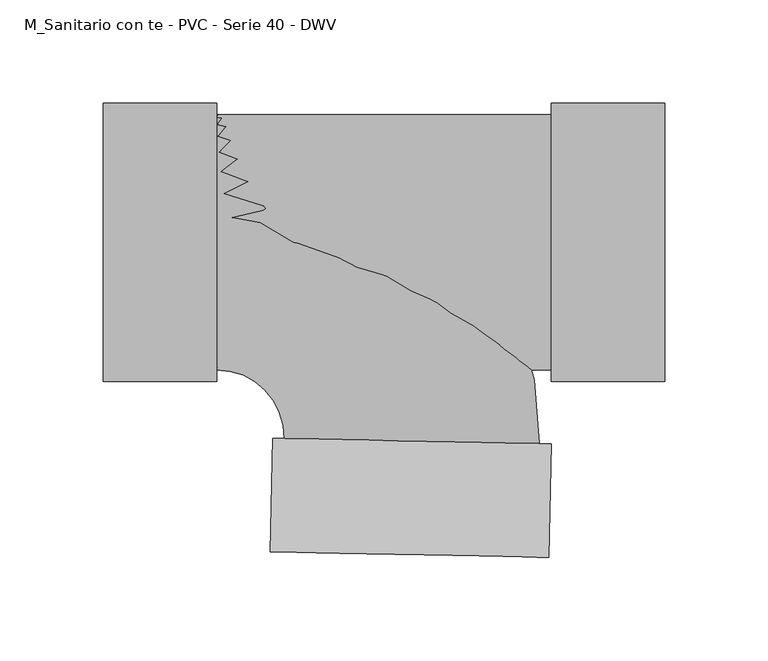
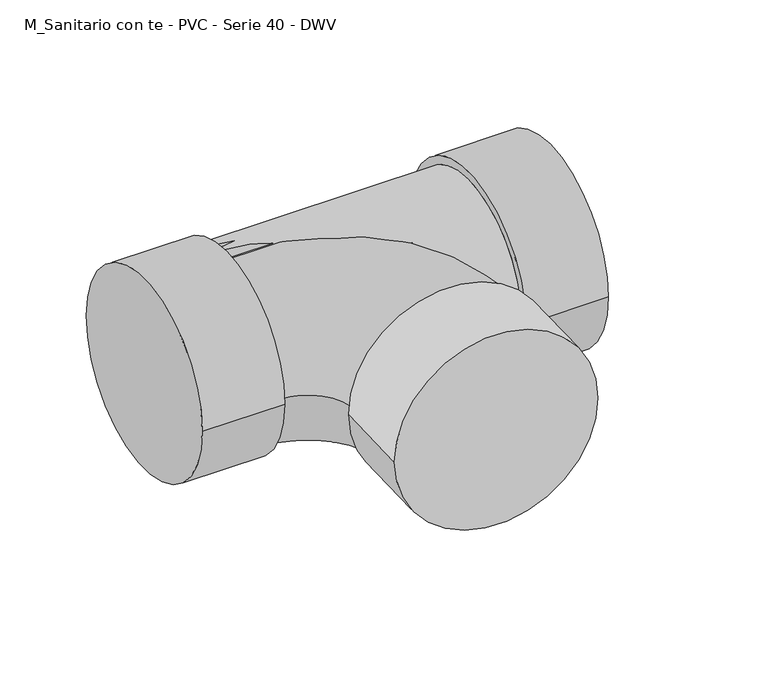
"""IFC4 building model written with IfcOpenShell, lengths in millimetres: pipe fitting geometry, M_Sanitario con te - PVC - Serie 40 - DWV : Estándar."""

from ifc_helpers import new_model, si_unit, point, frame, origin, place, context, project, spatial, circle_curve, ellipse_curve, trimmed, source, transform, mapped, element, save
from ifc_brep_helpers import plane_surface, cylinder_surface, revolved_surface, advanced_brep


def m_sanitario_con_te_pvc_serie_40_dwv_3bcfd35b(model_context):
    return source(origin(), model_context, "Body", "AdvancedBrep", [
        advanced_brep(
        [(-96.2140625, -61.7640625, 0.0), (-96.2140625, 61.7640625, 0.0), (-63.6756099, -94.9597912, 0.0), (59.8278169, -97.4298597, 0.0), (64.3499594, -152.5313015, 0.0), (-70.3973126, -149.836356, 0.0), (65.4497395, -97.5422982, 0.0), (-69.2975325, -94.8473527, 0.0)],
        [
            (0, 1, circle_curve(frame((-96.2140625, 0.0, 0.0), z_axis=(-1.0, 0.0, 0.0), x_axis=(0.0, 1.0, 0.0)), 61.7640625)),
            (1, 0, circle_curve(frame((-96.2140625, 0.0, 0.0), z_axis=(-1.0, 0.0, 0.0), x_axis=(0.0, 1.0, 0.0)), 61.7640625)),
            (0, 2, circle_curve(frame((-96.2140625, -94.3090221, 0.0), z_axis=(0.0, 0.0, -1.0), x_axis=(0.0, 1.0, 0.0)), 32.5449596)),
            (2, 3, circle_curve(frame((-1.9238965, -96.1948255, 0.0), z_axis=(0.019996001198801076, 0.999800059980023, 0.0), x_axis=(0.999800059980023, -0.019996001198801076, 0.0)), 61.7640625)),
            (3, 1, circle_curve(frame((-96.2140625, -94.3090221, 0.0), z_axis=(0.0, 0.0, 1.0), x_axis=(0.0, 1.0, 0.0)), 156.0730846)),
            (3, 2, circle_curve(frame((-1.9238965, -96.1948255, 0.0), z_axis=(0.019996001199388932, 0.9998000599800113, 0.0), x_axis=(0.9998000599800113, -0.019996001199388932, 0.0)), 61.7640625)),
            (4, 5, circle_curve(frame((-3.0236766, -151.1838288, 0.0), z_axis=(-0.019996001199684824, -0.9998000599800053, 0.0), x_axis=(-0.9998000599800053, 0.019996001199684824, 0.0)), 67.3871094)),
            (5, 4, circle_curve(frame((-3.0236766, -151.1838288, 0.0), z_axis=(-0.019996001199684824, -0.9998000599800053, 0.0), x_axis=(-0.9998000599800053, 0.019996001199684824, 0.0)), 67.3871094)),
            (6, 7, circle_curve(frame((-1.9238965, -96.1948255, 0.0), z_axis=(0.019996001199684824, 0.9998000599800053, 0.0), x_axis=(-0.9998000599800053, 0.019996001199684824, 0.0)), 67.3871094)),
            (7, 6, circle_curve(frame((-1.9238965, -96.1948255, 0.0), z_axis=(0.019996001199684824, 0.9998000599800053, 0.0), x_axis=(-0.9998000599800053, 0.019996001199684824, 0.0)), 67.3871094)),
            (4, 6),
            (7, 5),
        ],
        [
            plane_surface(frame((-96.2140625, 0.0, 0.0), z_axis=(-1.0, 0.0, 0.0), x_axis=(0.0, 0.0, 1.0))),
            revolved_surface(trimmed(ellipse_curve(frame((-96.2140625, 0.0, 0.0), z_axis=(-1.0, 0.0, 0.0), x_axis=(0.0, 1.0, 0.0)), 61.7640625, 61.7640625), [point((-96.2140625, -61.7640625, 0.0))], [point((-96.2140625, 61.7640625, 0.0))], True, "CARTESIAN"), (-96.2140625, -94.3090221, 0.0), (0.0, 0.0, -1.0)),
            revolved_surface(trimmed(ellipse_curve(frame((-96.2140625, 0.0, 0.0), z_axis=(-1.0, 0.0, 0.0), x_axis=(0.0, 1.0, 0.0)), 61.7640625, 61.7640625), [point((-96.2140625, 61.7640625, 0.0))], [point((-96.2140625, -61.7640625, 0.0))], True, "CARTESIAN"), (-96.2140625, -94.3090221, 0.0), (0.0, 0.0, -1.0)),
            plane_surface(frame((-3.0236766, -151.1838288, 0.0), z_axis=(-0.019996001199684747, -0.9998000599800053, 0.0), x_axis=(0.0, 0.0, 1.0))),
            plane_surface(frame((-1.9238965, -96.1948255, 0.0), z_axis=(0.019996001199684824, 0.9998000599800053, 0.0), x_axis=(0.0, 0.0, 1.0))),
            cylinder_surface(frame((-3.0236766, -151.1838288, 0.0), z_axis=(-0.019996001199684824, -0.9998000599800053, 0.0), x_axis=(-0.9998000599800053, 0.019996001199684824, 0.0)), 67.3871094),
        ],
        [
            (0, [[1, 2]]),
            (1, [[-1, 3, 4, 5]]),
            (2, [[-2, -5, 6, -3]]),
            (3, [[7, 8]]),
            (4, [[9, 10], [-4, -6]]),
            (5, [[-7, 11, -10, 12]]),
            (5, [[-8, -12, -9, -11]]),
        ],
    ),
        advanced_brep(
        [(-96.2140625, -61.7640625, 0.0), (65.4497395, -61.7640625, 0.0), (65.4497395, 61.7640625, 0.0), (-96.2140625, 61.7640625, 0.0), (65.4497395, -67.3871094, 0.0), (65.4497395, 67.3871094, 0.0), (120.4497395, -67.3871094, 0.0), (120.4497395, 67.3871094, 0.0), (-151.2140625, -67.3871094, 0.0), (-151.2140625, 67.3871094, 0.0), (-96.2140625, -67.3871094, 0.0), (-96.2140625, 67.3871094, 0.0)],
        [
            (0, 1),
            (1, 2, circle_curve(frame((65.4497395, 0.0, 0.0), z_axis=(-1.0, 0.0, 0.0), x_axis=(0.0, 1.0, 0.0)), 61.7640625)),
            (2, 3),
            (3, 0, circle_curve(frame((-96.2140625, 0.0, 0.0), z_axis=(1.0, 0.0, 0.0), x_axis=(0.0, 1.0, 0.0)), 61.7640625)),
            (0, 3, circle_curve(frame((-96.2140625, 0.0, 0.0), z_axis=(1.0, 0.0, 0.0), x_axis=(0.0, 1.0, 0.0)), 61.7640625)),
            (2, 1, circle_curve(frame((65.4497395, 0.0, 0.0), z_axis=(-1.0, 0.0, 0.0), x_axis=(0.0, 1.0, 0.0)), 61.7640625)),
            (4, 5, circle_curve(frame((65.4497395, 0.0, 0.0), z_axis=(-1.0, 0.0, 0.0), x_axis=(0.0, 1.0, 0.0)), 67.3871094)),
            (5, 4, circle_curve(frame((65.4497395, 0.0, 0.0), z_axis=(-1.0, 0.0, 0.0), x_axis=(0.0, 1.0, 0.0)), 67.3871094)),
            (6, 7, circle_curve(frame((120.4497395, 0.0, 0.0), z_axis=(1.0, 0.0, 0.0), x_axis=(0.0, 1.0, 0.0)), 67.3871094)),
            (7, 6, circle_curve(frame((120.4497395, 0.0, 0.0), z_axis=(1.0, 0.0, 0.0), x_axis=(0.0, 1.0, 0.0)), 67.3871094)),
            (4, 6),
            (7, 5),
            (8, 9, circle_curve(frame((-151.2140625, 0.0, 0.0), z_axis=(-1.0, 0.0, 0.0), x_axis=(0.0, 1.0, 0.0)), 67.3871094)),
            (9, 8, circle_curve(frame((-151.2140625, 0.0, 0.0), z_axis=(-1.0, 0.0, 0.0), x_axis=(0.0, 1.0, 0.0)), 67.3871094)),
            (10, 11, circle_curve(frame((-96.2140625, 0.0, 0.0), z_axis=(1.0, 0.0, 0.0), x_axis=(0.0, 1.0, 0.0)), 67.3871094)),
            (11, 10, circle_curve(frame((-96.2140625, 0.0, 0.0), z_axis=(1.0, 0.0, 0.0), x_axis=(0.0, 1.0, 0.0)), 67.3871094)),
            (8, 10),
            (11, 9),
        ],
        [
            cylinder_surface(frame((-96.2140625, 0.0, 0.0), z_axis=(-1.0, 0.0, 0.0), x_axis=(0.0, 1.0, 0.0)), 61.7640625),
            plane_surface(frame((65.4497395, 0.0, 0.0), z_axis=(-1.0, 0.0, 0.0), x_axis=(0.0, 0.0, 1.0))),
            plane_surface(frame((120.4497395, 0.0, 0.0), z_axis=(1.0, 0.0, 0.0), x_axis=(0.0, 0.0, 1.0))),
            cylinder_surface(frame((65.4497395, 0.0, 0.0), z_axis=(-1.0, 0.0, 0.0), x_axis=(0.0, 1.0, 0.0)), 67.3871094),
            plane_surface(frame((-151.2140625, 0.0, 0.0), z_axis=(-1.0, 0.0, 0.0), x_axis=(0.0, 0.0, 1.0))),
            plane_surface(frame((-96.2140625, 0.0, 0.0), z_axis=(1.0, 0.0, 0.0), x_axis=(0.0, 0.0, 1.0))),
            cylinder_surface(frame((-151.2140625, 0.0, 0.0), z_axis=(-1.0, 0.0, 0.0), x_axis=(0.0, 1.0, 0.0)), 67.3871094),
        ],
        [
            (0, [[1, 2, 3, 4]]),
            (0, [[-1, 5, -3, 6]]),
            (1, [[7, 8], [-2, -6]]),
            (2, [[9, 10]]),
            (3, [[-7, 11, -10, 12]]),
            (3, [[-8, -12, -9, -11]]),
            (4, [[13, 14]]),
            (5, [[15, 16], [-4, -5]]),
            (6, [[-13, 17, -16, 18]]),
            (6, [[-14, -18, -15, -17]]),
        ],
    ),
    ])


if __name__ == "__main__":
    model = new_model("IFC4")
    model_context = context("Model", 3, world=origin())
    ifc_project = project(units=[si_unit("LENGTHUNIT", "METRE", prefix="MILLI")], contexts=[model_context])
    site = spatial("IfcSite", under=ifc_project)
    building = spatial("IfcBuilding", under=site)
    placement = place(None, origin())
    m_sanitario_con_te_pvc_serie_40_dwv_shape = m_sanitario_con_te_pvc_serie_40_dwv_3bcfd35b(model_context)
    element("IfcPipeFitting", 1, ObjectType="M_Sanitario con te - PVC - Serie 40 - DWV : Estándar", at=placement, inside=building, context=model_context, shape_type="MappedRepresentation", body=[
        mapped(m_sanitario_con_te_pvc_serie_40_dwv_shape, transform((0.0, 0.0, 0.0), x_axis=(1.0, 0.0, 0.0), y_axis=(0.0, 1.0, 0.0), z_axis=(0.0, 0.0, 1.0))),
    ])
    save(model, "model.ifc")
